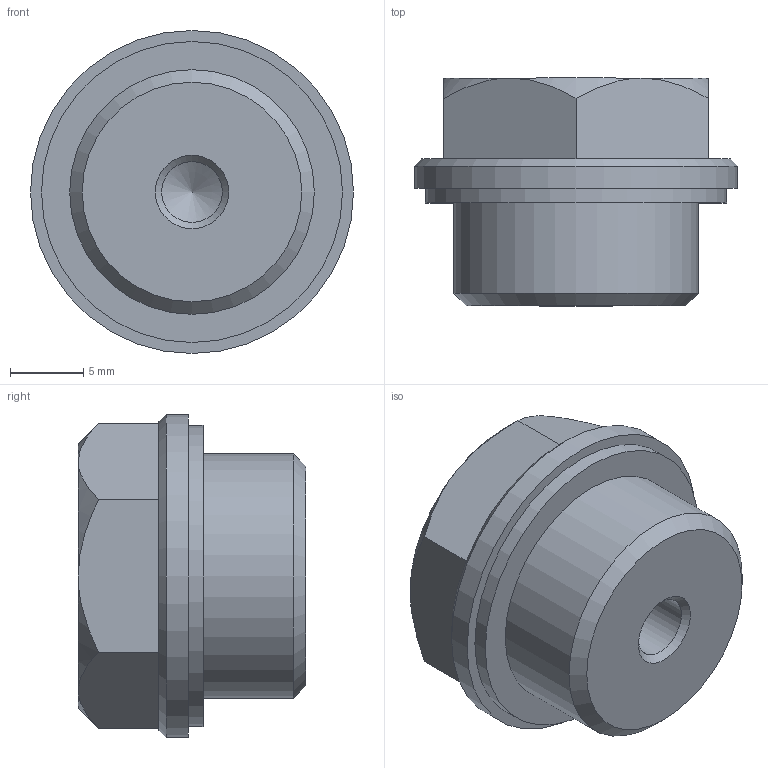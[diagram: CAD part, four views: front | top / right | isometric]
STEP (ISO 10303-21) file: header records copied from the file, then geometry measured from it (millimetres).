
FILE_DESCRIPTION( ( 'STEP AP203' ), '1' );
FILE_NAME( 'C:/Temp/Ganter_Step_05_03_2020/data/3_5/gn742/gn742_1/Threaded plug GN 742-22-G3_8-OS-1.stp', '2020-03-12T13:39:12', ( 'License CC BY-ND 4.0' ), ( 'CADENAS' ), ' ', 'PARTsolutions', ' ' );
FILE_SCHEMA( ( 'CONFIG_CONTROL_DESIGN' ) );
Length unit declared in the file: millimetre
Products named in the file (1): _Threaded plug GN 742-22-G3/8-OS-1
Bounding box: 22 x 15.5 x 22 mm (x, y, z)
Volume: 3954.2 mm3; surface area: 1760.4 mm2
Topology: 1 solids, 1 shells, 25 faces, 50 edges, 30 vertices
Faces by surface type: plane 11, cone 10, cylinder 4
Full cylindrical faces by diameter (mm): 4.134 x1, 16.662 x1, 20.5 x1, 22 x1
Entity records: 700 total; most frequent: CARTESIAN_POINT 181, DIRECTION 98, ORIENTED_EDGE 82, AXIS2_PLACEMENT_3D 43, EDGE_CURVE 41, EDGE_LOOP 36, VERTEX_POINT 30, FACE_OUTER_BOUND 29
